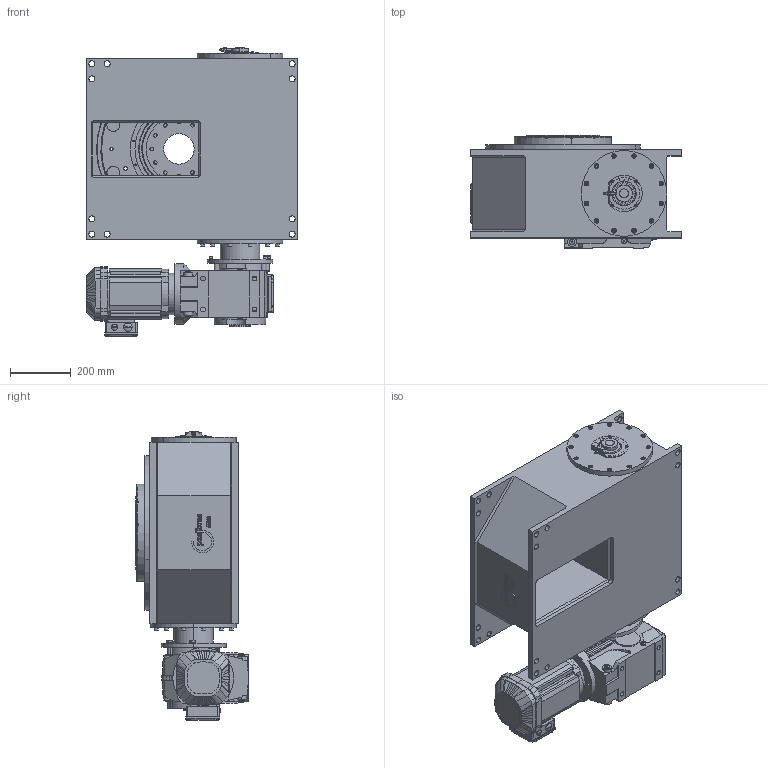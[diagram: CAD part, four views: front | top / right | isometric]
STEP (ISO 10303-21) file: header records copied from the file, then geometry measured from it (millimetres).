
FILE_DESCRIPTION (( 'STEP AP214' ), '1' );
FILE_NAME ('M510_SEW_KA77DRN90L4_D1_09.STEP', '2020-06-17T12:46:07', ( '' ), ( '' ), 'SwSTEP 2.0', 'SolidWorks 2020', '' );
FILE_SCHEMA (( 'AUTOMOTIVE_DESIGN' ));
Length unit declared in the file: millimetre
Products named in the file (1): M510_SEW_KA77DRN90L4_D1_09
Bounding box: 695 x 371.25 x 951.47 mm (x, y, z)
Surface area: 2848564.1 mm2 (no closed solid volume)
Topology: 0 solids, 110 shells, 1657 faces, 5220 edges, 3605 vertices
Faces by surface type: plane 803, cylinder 531, torus 112, cone 102, bspline 97, sphere 12
Entity records: 82597 total; most frequent: CARTESIAN_POINT 18384, DIRECTION 9624, ORIENTED_EDGE 8704, EDGE_CURVE 5202, VERTEX_POINT 3605, AXIS2_PLACEMENT_3D 3368, VECTOR 2888, LINE 2888
